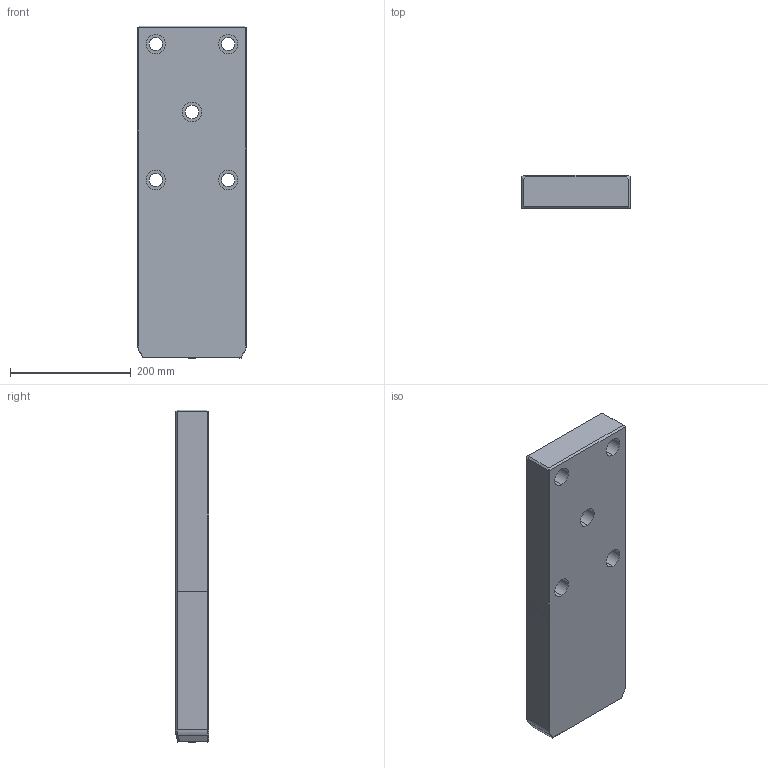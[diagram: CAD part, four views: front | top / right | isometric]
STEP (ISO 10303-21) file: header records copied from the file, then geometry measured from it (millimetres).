
FILE_DESCRIPTION((''),'2;1');
FILE_NAME('','2010-08-30T14:09:59+09:00',('misumi'),(''),'M/STEP i/f 1R2-14','CADmeister v5.1','');
FILE_SCHEMA(('AUTOMOTIVE_DESIGN'));
Length unit declared in the file: millimetre
Products named in the file (1): OGPZ180-550
Bounding box: 180 x 55 x 550 mm (x, y, z)
Volume: 5270174.1 mm3; surface area: 292923.7 mm2
Topology: 1 solids, 1 shells, 71 faces, 168 edges, 105 vertices
Faces by surface type: plane 38, cylinder 25, bspline 6, cone 2
Entity records: 2416 total; most frequent: CARTESIAN_POINT 687, ORIENTED_EDGE 336, DIRECTION 330, EDGE_CURVE 168, AXIS2_PLACEMENT_3D 114, VERTEX_POINT 105, LINE 102, VECTOR 102
